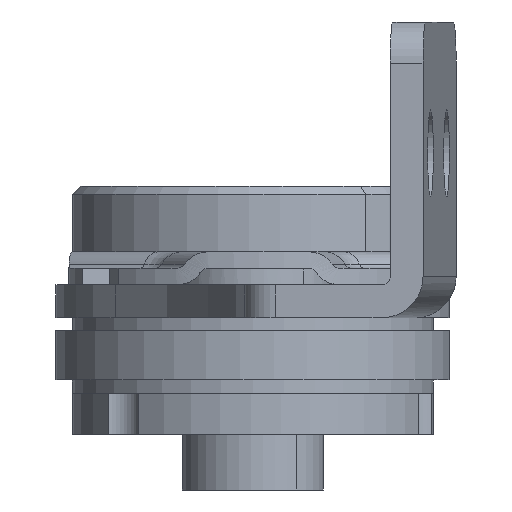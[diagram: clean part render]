
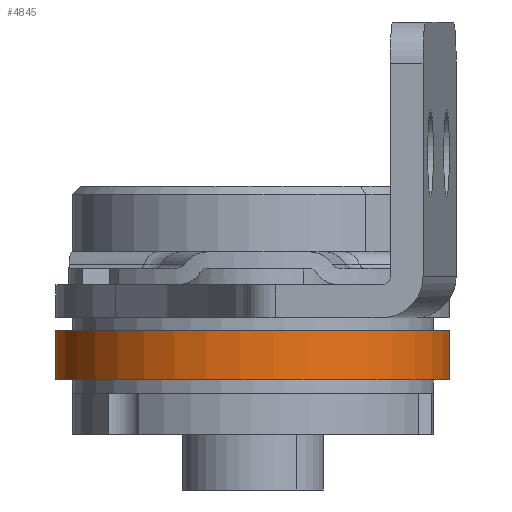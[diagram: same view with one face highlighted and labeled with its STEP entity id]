
A CAD part, left-side view. The second image highlights one B-rep face of the part: STEP entity #4845.
In plain terms, the highlighted cylindrical face has radius 12 mm (diameter 24 mm), a partial arc.
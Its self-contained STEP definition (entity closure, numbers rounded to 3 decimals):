
#174 = CARTESIAN_POINT ( 'NONE',  ( 0., 9.429, 7.423 ) ) ;
#209 = CIRCLE ( 'NONE', #10669, 12. ) ;
#351 = VERTEX_POINT ( 'NONE', #174 ) ;
#512 = DIRECTION ( 'NONE',  ( 0., 0., -1. ) ) ;
#627 = DIRECTION ( 'NONE',  ( 1., 0., 0. ) ) ;
#1073 = ORIENTED_EDGE ( 'NONE', *, *, #8823, .T. ) ;
#1532 = CARTESIAN_POINT ( 'NONE',  ( 3., 0., 0. ) ) ;
#1709 = ORIENTED_EDGE ( 'NONE', *, *, #13863, .F. ) ;
#3268 = FACE_OUTER_BOUND ( 'NONE', #11065, .T. ) ;
#3379 = EDGE_CURVE ( 'NONE', #8179, #351, #6953, .T. ) ;
#4076 = VERTEX_POINT ( 'NONE', #10122 ) ;
#4616 = EDGE_CURVE ( 'NONE', #4076, #351, #13787, .T. ) ;
#4845 = ADVANCED_FACE ( 'NONE', ( #3268 ), #11424, .T. ) ;
#5192 = AXIS2_PLACEMENT_3D ( 'NONE', #13327, #6936, #512 ) ;
#6923 = DIRECTION ( 'NONE',  ( -1., 0., 0. ) ) ;
#6936 = DIRECTION ( 'NONE',  ( 1., 0., 0. ) ) ;
#6953 = CIRCLE ( 'NONE', #5192, 12. ) ;
#7047 = CARTESIAN_POINT ( 'NONE',  ( 3., 0., 0. ) ) ;
#7142 = AXIS2_PLACEMENT_3D ( 'NONE', #1532, #6923, #13312 ) ;
#7809 = CARTESIAN_POINT ( 'NONE',  ( 3., -9.429, 7.423 ) ) ;
#8124 = DIRECTION ( 'NONE',  ( 0., 0., -1. ) ) ;
#8166 = LINE ( 'NONE', #13620, #13840 ) ;
#8179 = VERTEX_POINT ( 'NONE', #13058 ) ;
#8625 = ORIENTED_EDGE ( 'NONE', *, *, #4616, .F. ) ;
#8823 = EDGE_CURVE ( 'NONE', #11683, #8179, #8166, .T. ) ;
#9290 = DIRECTION ( 'NONE',  ( -1., 0., 0. ) ) ;
#9854 = ORIENTED_EDGE ( 'NONE', *, *, #3379, .T. ) ;
#10122 = CARTESIAN_POINT ( 'NONE',  ( 3., 9.429, 7.423 ) ) ;
#10669 = AXIS2_PLACEMENT_3D ( 'NONE', #7047, #627, #8124 ) ;
#10926 = VECTOR ( 'NONE', #11753, 1000. ) ;
#11065 = EDGE_LOOP ( 'NONE', ( #9854, #8625, #1709, #1073 ) ) ;
#11424 = CYLINDRICAL_SURFACE ( 'NONE', #7142, 12. ) ;
#11683 = VERTEX_POINT ( 'NONE', #7809 ) ;
#11753 = DIRECTION ( 'NONE',  ( -1., 0., 0. ) ) ;
#12789 = CARTESIAN_POINT ( 'NONE',  ( 3., 9.429, 7.423 ) ) ;
#13058 = CARTESIAN_POINT ( 'NONE',  ( 0., -9.429, 7.423 ) ) ;
#13312 = DIRECTION ( 'NONE',  ( 0., 0., 1. ) ) ;
#13327 = CARTESIAN_POINT ( 'NONE',  ( 0., 0., 0. ) ) ;
#13620 = CARTESIAN_POINT ( 'NONE',  ( 3., -9.429, 7.423 ) ) ;
#13787 = LINE ( 'NONE', #12789, #10926 ) ;
#13840 = VECTOR ( 'NONE', #9290, 1000. ) ;
#13863 = EDGE_CURVE ( 'NONE', #11683, #4076, #209, .T. ) ;
